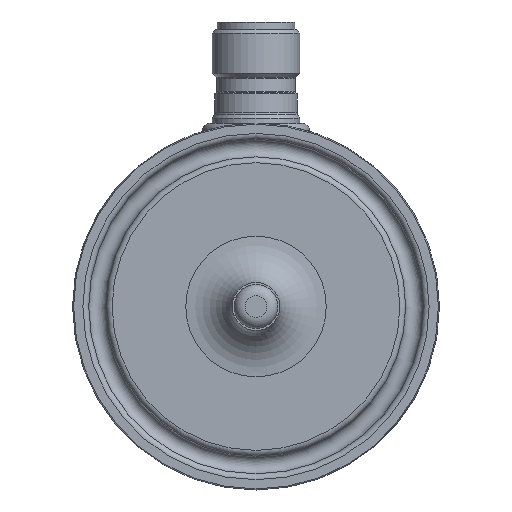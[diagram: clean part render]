
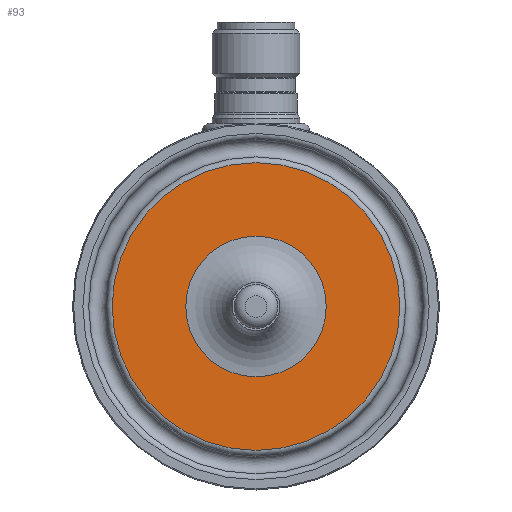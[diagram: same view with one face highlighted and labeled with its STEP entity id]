
A CAD part, front view. The second image highlights one B-rep face of the part: STEP entity #93.
In plain terms, the highlighted planar face has unit normal (0, -1, 0).
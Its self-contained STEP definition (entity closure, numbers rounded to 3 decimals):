
#93 = ADVANCED_FACE( '', ( #182, #183 ), #184, .F. );
#182 = FACE_BOUND( '', #346, .T. );
#183 = FACE_OUTER_BOUND( '', #347, .T. );
#184 = PLANE( '', #348 );
#346 = EDGE_LOOP( '', ( #569 ) );
#347 = EDGE_LOOP( '', ( #570 ) );
#348 = AXIS2_PLACEMENT_3D( '', #571, #572, #573 );
#569 = ORIENTED_EDGE( '', *, *, #812, .F. );
#570 = ORIENTED_EDGE( '', *, *, #813, .T. );
#571 = CARTESIAN_POINT( '', ( 19.64, -21.35, 0. ) );
#572 = DIRECTION( '', ( 0., 1., 0. ) );
#573 = DIRECTION( '', ( 0., 0., 1. ) );
#812 = EDGE_CURVE( '', #910, #910, #911, .T. );
#813 = EDGE_CURVE( '', #912, #912, #913, .T. );
#910 = VERTEX_POINT( '', #1155 );
#911 = CIRCLE( '', #1156, 9.592 );
#912 = VERTEX_POINT( '', #1157 );
#913 = CIRCLE( '', #1158, 19.64 );
#1155 = CARTESIAN_POINT( '', ( 0., -21.35, -9.592 ) );
#1156 = AXIS2_PLACEMENT_3D( '', #1285, #1286, #1287 );
#1157 = CARTESIAN_POINT( '', ( 0., -21.35, -19.64 ) );
#1158 = AXIS2_PLACEMENT_3D( '', #1288, #1289, #1290 );
#1285 = CARTESIAN_POINT( '', ( 0., -21.35, 0. ) );
#1286 = DIRECTION( '', ( 0., -1., 0. ) );
#1287 = DIRECTION( '', ( 0., 0., -1. ) );
#1288 = CARTESIAN_POINT( '', ( 0., -21.35, 0. ) );
#1289 = DIRECTION( '', ( 0., -1., 0. ) );
#1290 = DIRECTION( '', ( 0., 0., -1. ) );
